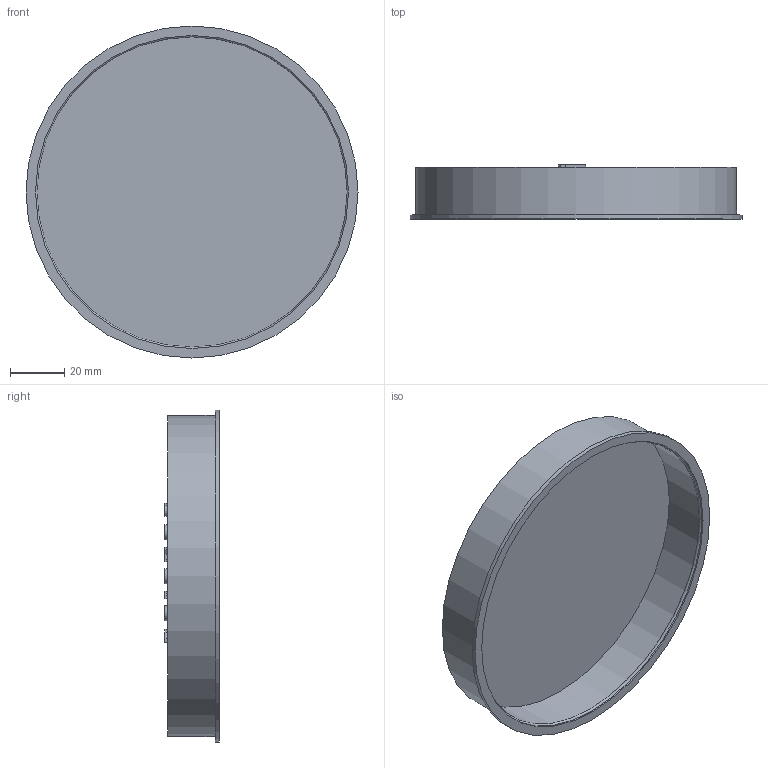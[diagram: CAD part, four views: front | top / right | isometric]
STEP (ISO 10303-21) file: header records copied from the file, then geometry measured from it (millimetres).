
FILE_DESCRIPTION( ( 'Unknown' ), '1' );
FILE_NAME( 'X:/Daten ( aktueller Bestand )/Projekte und Zeichnungen/Solid Edge/18 CF Dichtungs-Verbindungsteile/Flanschkappe Kunststoff/7083.stp', 'Unknown', ( 'Unknown' ), ( 'Unknown' ), 'XStep 1.0', 'Unknown', ' ' );
FILE_SCHEMA( ( 'automotive_design' ) );
Length unit declared in the file: millimetre
Products named in the file (1): 1
Bounding box: 122 x 20 x 122 mm (x, y, z)
Volume: 27420.6 mm3; surface area: 37194 mm2
Topology: 1 solids, 1 shells, 67 faces, 157 edges, 104 vertices
Faces by surface type: plane 49, extrusion 13, cylinder 4, torus 1
Full cylindrical faces by diameter (mm): 115 x2, 118 x1, 122 x1
Entity records: 2954 total; most frequent: CARTESIAN_POINT 1076, ORIENTED_EDGE 296, DIRECTION 183, EDGE_CURVE 148, B_SPLINE_CURVE_WITH_KNOTS 109, VERTEX_POINT 104, EDGE_LOOP 88, FACE_OUTER_BOUND 76
